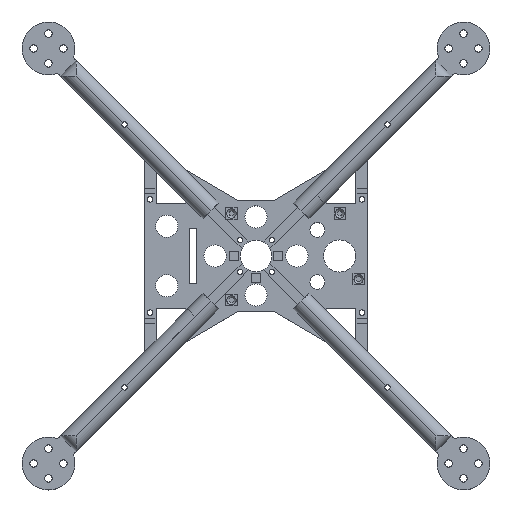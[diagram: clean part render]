
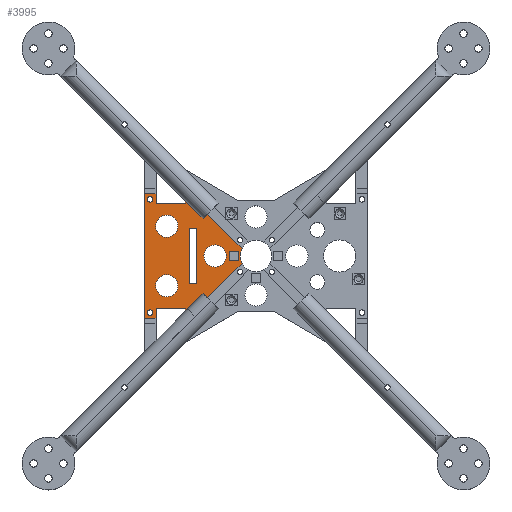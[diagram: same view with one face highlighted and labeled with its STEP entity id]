
A CAD part, top view. The second image highlights one B-rep face of the part: STEP entity #3995.
In plain terms, the highlighted planar face has unit normal (0, 0, 1).
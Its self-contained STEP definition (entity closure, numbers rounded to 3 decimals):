
#1076 = VERTEX_POINT('',#1077);
#1077 = CARTESIAN_POINT('',(-28.5,20.015,5.));
#1133 = VERTEX_POINT('',#1134);
#1134 = CARTESIAN_POINT('',(-38.015,29.529,5.));
#1140 = EDGE_CURVE('',#1133,#1076,#1141,.T.);
#1141 = LINE('',#1142,#1143);
#1142 = CARTESIAN_POINT('',(-48.136,39.651,5.));
#1143 = VECTOR('',#1144,1.);
#1144 = DIRECTION('',(0.707,-0.707,0.));
#1312 = VERTEX_POINT('',#1313);
#1313 = CARTESIAN_POINT('',(-60.,-33.6,5.));
#1319 = EDGE_CURVE('',#1320,#1312,#1322,.T.);
#1320 = VERTEX_POINT('',#1321);
#1321 = CARTESIAN_POINT('',(-60.,33.6,5.));
#1322 = LINE('',#1323,#1324);
#1323 = CARTESIAN_POINT('',(-60.,28.5,5.));
#1324 = VECTOR('',#1325,1.);
#1325 = DIRECTION('',(0.,-1.,0.));
#1511 = VERTEX_POINT('',#1512);
#1512 = CARTESIAN_POINT('',(-28.5,-20.015,5.));
#1518 = EDGE_CURVE('',#1519,#1511,#1521,.T.);
#1519 = VERTEX_POINT('',#1520);
#1520 = CARTESIAN_POINT('',(-36.985,-28.5,5.));
#1521 = LINE('',#1522,#1523);
#1522 = CARTESIAN_POINT('',(-36.985,-28.5,5.));
#1523 = VECTOR('',#1524,1.);
#1524 = DIRECTION('',(0.707,0.707,0.));
#1526 = EDGE_CURVE('',#1527,#1519,#1529,.T.);
#1527 = VERTEX_POINT('',#1528);
#1528 = CARTESIAN_POINT('',(-38.015,-29.529,5.));
#1529 = LINE('',#1530,#1531);
#1530 = CARTESIAN_POINT('',(-48.136,-39.651,5.));
#1531 = VECTOR('',#1532,1.);
#1532 = DIRECTION('',(0.707,0.707,0.));
#2457 = VERTEX_POINT('',#2458);
#2458 = CARTESIAN_POINT('',(-38.015,-28.5,5.));
#2467 = EDGE_CURVE('',#2457,#1527,#2468,.T.);
#2468 = LINE('',#2469,#2470);
#2469 = CARTESIAN_POINT('',(-38.015,-28.5,5.));
#2470 = VECTOR('',#2471,1.);
#2471 = DIRECTION('',(0.,-1.,0.));
#2481 = EDGE_CURVE('',#2482,#2484,#2486,.T.);
#2482 = VERTEX_POINT('',#2483);
#2483 = CARTESIAN_POINT('',(-53.8,-28.5,5.));
#2484 = VERTEX_POINT('',#2485);
#2485 = CARTESIAN_POINT('',(-53.8,-33.6,5.));
#2486 = LINE('',#2487,#2488);
#2487 = CARTESIAN_POINT('',(-53.8,-28.5,5.));
#2488 = VECTOR('',#2489,1.);
#2489 = DIRECTION('',(0.,-1.,0.));
#2538 = EDGE_CURVE('',#2482,#2457,#2539,.T.);
#2539 = LINE('',#2540,#2541);
#2540 = CARTESIAN_POINT('',(-60.,-28.5,5.));
#2541 = VECTOR('',#2542,1.);
#2542 = DIRECTION('',(1.,0.,0.));
#2580 = EDGE_CURVE('',#2581,#2581,#2583,.T.);
#2581 = VERTEX_POINT('',#2582);
#2582 = CARTESIAN_POINT('',(-42.,-16.,5.));
#2583 = CIRCLE('',#2584,6.);
#2584 = AXIS2_PLACEMENT_3D('',#2585,#2586,#2587);
#2585 = CARTESIAN_POINT('',(-48.,-16.,5.));
#2586 = DIRECTION('',(0.,0.,1.));
#2587 = DIRECTION('',(1.,0.,0.));
#3210 = EDGE_CURVE('',#3211,#3211,#3213,.T.);
#3211 = VERTEX_POINT('',#3212);
#3212 = CARTESIAN_POINT('',(-16.,0.,5.));
#3213 = CIRCLE('',#3214,6.);
#3214 = AXIS2_PLACEMENT_3D('',#3215,#3216,#3217);
#3215 = CARTESIAN_POINT('',(-22.,0.,5.));
#3216 = DIRECTION('',(0.,0.,1.));
#3217 = DIRECTION('',(1.,0.,0.));
#3235 = EDGE_CURVE('',#3236,#3238,#3240,.T.);
#3236 = VERTEX_POINT('',#3237);
#3237 = CARTESIAN_POINT('',(-36.,-15.,5.));
#3238 = VERTEX_POINT('',#3239);
#3239 = CARTESIAN_POINT('',(-32.,-15.,5.));
#3240 = LINE('',#3241,#3242);
#3241 = CARTESIAN_POINT('',(-36.,-15.,5.));
#3242 = VECTOR('',#3243,1.);
#3243 = DIRECTION('',(1.,0.,0.));
#3267 = VERTEX_POINT('',#3268);
#3268 = CARTESIAN_POINT('',(-36.,15.,5.));
#3274 = EDGE_CURVE('',#3267,#3236,#3275,.T.);
#3275 = LINE('',#3276,#3277);
#3276 = CARTESIAN_POINT('',(-36.,15.,5.));
#3277 = VECTOR('',#3278,1.);
#3278 = DIRECTION('',(0.,-1.,0.));
#3291 = EDGE_CURVE('',#3238,#3292,#3294,.T.);
#3292 = VERTEX_POINT('',#3293);
#3293 = CARTESIAN_POINT('',(-32.,15.,5.));
#3294 = LINE('',#3295,#3296);
#3295 = CARTESIAN_POINT('',(-32.,-15.,5.));
#3296 = VECTOR('',#3297,1.);
#3297 = DIRECTION('',(0.,1.,0.));
#3314 = EDGE_CURVE('',#3292,#3267,#3315,.T.);
#3315 = LINE('',#3316,#3317);
#3316 = CARTESIAN_POINT('',(-32.,15.,5.));
#3317 = VECTOR('',#3318,1.);
#3318 = DIRECTION('',(-1.,0.,0.));
#3331 = EDGE_CURVE('',#3332,#3332,#3334,.T.);
#3332 = VERTEX_POINT('',#3333);
#3333 = CARTESIAN_POINT('',(-42.,16.,5.));
#3334 = CIRCLE('',#3335,6.);
#3335 = AXIS2_PLACEMENT_3D('',#3336,#3337,#3338);
#3336 = CARTESIAN_POINT('',(-48.,16.,5.));
#3337 = DIRECTION('',(0.,0.,1.));
#3338 = DIRECTION('',(1.,0.,0.));
#3381 = EDGE_CURVE('',#3382,#3384,#3386,.T.);
#3382 = VERTEX_POINT('',#3383);
#3383 = CARTESIAN_POINT('',(-38.015,28.5,5.));
#3384 = VERTEX_POINT('',#3385);
#3385 = CARTESIAN_POINT('',(-53.8,28.5,5.));
#3386 = LINE('',#3387,#3388);
#3387 = CARTESIAN_POINT('',(-51.8,28.5,5.));
#3388 = VECTOR('',#3389,1.);
#3389 = DIRECTION('',(-1.,0.,0.));
#3413 = EDGE_CURVE('',#3382,#1133,#3414,.T.);
#3414 = LINE('',#3415,#3416);
#3415 = CARTESIAN_POINT('',(-38.015,28.5,5.));
#3416 = VECTOR('',#3417,1.);
#3417 = DIRECTION('',(0.,1.,0.));
#3457 = VERTEX_POINT('',#3458);
#3458 = CARTESIAN_POINT('',(-53.8,33.6,5.));
#3464 = EDGE_CURVE('',#3384,#3457,#3465,.T.);
#3465 = LINE('',#3466,#3467);
#3466 = CARTESIAN_POINT('',(-53.8,28.5,5.));
#3467 = VECTOR('',#3468,1.);
#3468 = DIRECTION('',(0.,1.,0.));
#3757 = VERTEX_POINT('',#3758);
#3758 = CARTESIAN_POINT('',(-26.025,22.49,5.));
#3764 = EDGE_CURVE('',#1076,#3757,#3765,.T.);
#3765 = LINE('',#3766,#3767);
#3766 = CARTESIAN_POINT('',(-28.5,20.015,5.));
#3767 = VECTOR('',#3768,1.);
#3768 = DIRECTION('',(0.707,0.707,0.));
#3995 = ADVANCED_FACE('',(#3996,#4052,#4063,#4066,#4072,#4075,#4086,
    #4089),#4123,.T.);
#3996 = FACE_BOUND('',#3997,.T.);
#3997 = EDGE_LOOP('',(#3998,#4004,#4005,#4006,#4007,#4008,#4009,#4017,
    #4025,#4034,#4040,#4041,#4042,#4043,#4044,#4045,#4051));
#3998 = ORIENTED_EDGE('',*,*,#3999,.F.);
#3999 = EDGE_CURVE('',#2484,#1312,#4000,.T.);
#4000 = LINE('',#4001,#4002);
#4001 = CARTESIAN_POINT('',(-53.8,-33.6,5.));
#4002 = VECTOR('',#4003,1.);
#4003 = DIRECTION('',(-1.,0.,0.));
#4004 = ORIENTED_EDGE('',*,*,#2481,.F.);
#4005 = ORIENTED_EDGE('',*,*,#2538,.T.);
#4006 = ORIENTED_EDGE('',*,*,#2467,.T.);
#4007 = ORIENTED_EDGE('',*,*,#1526,.T.);
#4008 = ORIENTED_EDGE('',*,*,#1518,.T.);
#4009 = ORIENTED_EDGE('',*,*,#4010,.T.);
#4010 = EDGE_CURVE('',#1511,#4011,#4013,.T.);
#4011 = VERTEX_POINT('',#4012);
#4012 = CARTESIAN_POINT('',(-26.025,-22.49,5.));
#4013 = LINE('',#4014,#4015);
#4014 = CARTESIAN_POINT('',(-28.5,-20.015,5.));
#4015 = VECTOR('',#4016,1.);
#4016 = DIRECTION('',(0.707,-0.707,0.));
#4017 = ORIENTED_EDGE('',*,*,#4018,.F.);
#4018 = EDGE_CURVE('',#4019,#4011,#4021,.T.);
#4019 = VERTEX_POINT('',#4020);
#4020 = CARTESIAN_POINT('',(-7.512,-3.977,5.));
#4021 = LINE('',#4022,#4023);
#4022 = CARTESIAN_POINT('',(22.49,26.025,5.));
#4023 = VECTOR('',#4024,1.);
#4024 = DIRECTION('',(-0.707,-0.707,0.));
#4025 = ORIENTED_EDGE('',*,*,#4026,.T.);
#4026 = EDGE_CURVE('',#4019,#4027,#4029,.T.);
#4027 = VERTEX_POINT('',#4028);
#4028 = CARTESIAN_POINT('',(-7.512,3.977,5.));
#4029 = CIRCLE('',#4030,8.5);
#4030 = AXIS2_PLACEMENT_3D('',#4031,#4032,#4033);
#4031 = CARTESIAN_POINT('',(0.,0.,5.));
#4032 = DIRECTION('',(0.,0.,-1.));
#4033 = DIRECTION('',(1.,0.,0.));
#4034 = ORIENTED_EDGE('',*,*,#4035,.F.);
#4035 = EDGE_CURVE('',#3757,#4027,#4036,.T.);
#4036 = LINE('',#4037,#4038);
#4037 = CARTESIAN_POINT('',(-26.025,22.49,5.));
#4038 = VECTOR('',#4039,1.);
#4039 = DIRECTION('',(0.707,-0.707,0.));
#4040 = ORIENTED_EDGE('',*,*,#3764,.F.);
#4041 = ORIENTED_EDGE('',*,*,#1140,.F.);
#4042 = ORIENTED_EDGE('',*,*,#3413,.F.);
#4043 = ORIENTED_EDGE('',*,*,#3381,.T.);
#4044 = ORIENTED_EDGE('',*,*,#3464,.T.);
#4045 = ORIENTED_EDGE('',*,*,#4046,.F.);
#4046 = EDGE_CURVE('',#1320,#3457,#4047,.T.);
#4047 = LINE('',#4048,#4049);
#4048 = CARTESIAN_POINT('',(-60.,33.6,5.));
#4049 = VECTOR('',#4050,1.);
#4050 = DIRECTION('',(1.,0.,0.));
#4051 = ORIENTED_EDGE('',*,*,#1319,.T.);
#4052 = FACE_BOUND('',#4053,.T.);
#4053 = EDGE_LOOP('',(#4054));
#4054 = ORIENTED_EDGE('',*,*,#4055,.F.);
#4055 = EDGE_CURVE('',#4056,#4056,#4058,.T.);
#4056 = VERTEX_POINT('',#4057);
#4057 = CARTESIAN_POINT('',(-55.525,-30.5,5.));
#4058 = CIRCLE('',#4059,1.475);
#4059 = AXIS2_PLACEMENT_3D('',#4060,#4061,#4062);
#4060 = CARTESIAN_POINT('',(-57.,-30.5,5.));
#4061 = DIRECTION('',(0.,0.,1.));
#4062 = DIRECTION('',(1.,0.,0.));
#4063 = FACE_BOUND('',#4064,.T.);
#4064 = EDGE_LOOP('',(#4065));
#4065 = ORIENTED_EDGE('',*,*,#2580,.F.);
#4066 = FACE_BOUND('',#4067,.T.);
#4067 = EDGE_LOOP('',(#4068,#4069,#4070,#4071));
#4068 = ORIENTED_EDGE('',*,*,#3291,.F.);
#4069 = ORIENTED_EDGE('',*,*,#3235,.F.);
#4070 = ORIENTED_EDGE('',*,*,#3274,.F.);
#4071 = ORIENTED_EDGE('',*,*,#3314,.F.);
#4072 = FACE_BOUND('',#4073,.T.);
#4073 = EDGE_LOOP('',(#4074));
#4074 = ORIENTED_EDGE('',*,*,#3331,.F.);
#4075 = FACE_BOUND('',#4076,.T.);
#4076 = EDGE_LOOP('',(#4077));
#4077 = ORIENTED_EDGE('',*,*,#4078,.F.);
#4078 = EDGE_CURVE('',#4079,#4079,#4081,.T.);
#4079 = VERTEX_POINT('',#4080);
#4080 = CARTESIAN_POINT('',(-55.525,30.5,5.));
#4081 = CIRCLE('',#4082,1.475);
#4082 = AXIS2_PLACEMENT_3D('',#4083,#4084,#4085);
#4083 = CARTESIAN_POINT('',(-57.,30.5,5.));
#4084 = DIRECTION('',(0.,0.,1.));
#4085 = DIRECTION('',(1.,0.,0.));
#4086 = FACE_BOUND('',#4087,.T.);
#4087 = EDGE_LOOP('',(#4088));
#4088 = ORIENTED_EDGE('',*,*,#3210,.F.);
#4089 = FACE_BOUND('',#4090,.T.);
#4090 = EDGE_LOOP('',(#4091,#4101,#4109,#4117));
#4091 = ORIENTED_EDGE('',*,*,#4092,.F.);
#4092 = EDGE_CURVE('',#4093,#4095,#4097,.T.);
#4093 = VERTEX_POINT('',#4094);
#4094 = CARTESIAN_POINT('',(-14.5,-2.5,5.));
#4095 = VERTEX_POINT('',#4096);
#4096 = CARTESIAN_POINT('',(-9.5,-2.5,5.));
#4097 = LINE('',#4098,#4099);
#4098 = CARTESIAN_POINT('',(-14.5,-2.5,5.));
#4099 = VECTOR('',#4100,1.);
#4100 = DIRECTION('',(1.,0.,0.));
#4101 = ORIENTED_EDGE('',*,*,#4102,.F.);
#4102 = EDGE_CURVE('',#4103,#4093,#4105,.T.);
#4103 = VERTEX_POINT('',#4104);
#4104 = CARTESIAN_POINT('',(-14.5,2.5,5.));
#4105 = LINE('',#4106,#4107);
#4106 = CARTESIAN_POINT('',(-14.5,2.5,5.));
#4107 = VECTOR('',#4108,1.);
#4108 = DIRECTION('',(0.,-1.,0.));
#4109 = ORIENTED_EDGE('',*,*,#4110,.F.);
#4110 = EDGE_CURVE('',#4111,#4103,#4113,.T.);
#4111 = VERTEX_POINT('',#4112);
#4112 = CARTESIAN_POINT('',(-9.5,2.5,5.));
#4113 = LINE('',#4114,#4115);
#4114 = CARTESIAN_POINT('',(-9.5,2.5,5.));
#4115 = VECTOR('',#4116,1.);
#4116 = DIRECTION('',(-1.,0.,0.));
#4117 = ORIENTED_EDGE('',*,*,#4118,.F.);
#4118 = EDGE_CURVE('',#4095,#4111,#4119,.T.);
#4119 = LINE('',#4120,#4121);
#4120 = CARTESIAN_POINT('',(-9.5,-2.5,5.));
#4121 = VECTOR('',#4122,1.);
#4122 = DIRECTION('',(0.,1.,0.));
#4123 = PLANE('',#4124);
#4124 = AXIS2_PLACEMENT_3D('',#4125,#4126,#4127);
#4125 = CARTESIAN_POINT('',(-44.437,0.,5.));
#4126 = DIRECTION('',(0.,0.,1.));
#4127 = DIRECTION('',(1.,0.,0.));
